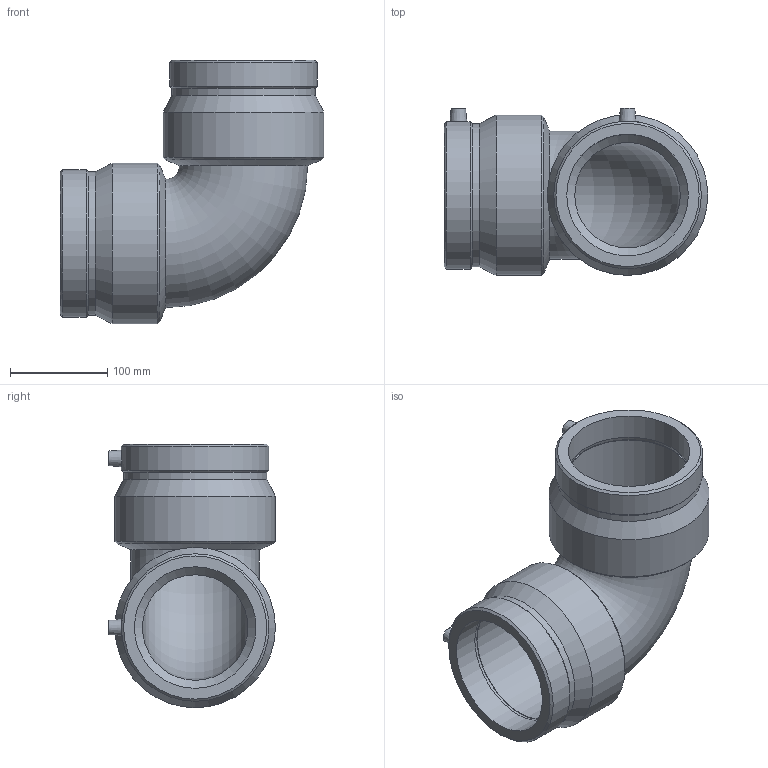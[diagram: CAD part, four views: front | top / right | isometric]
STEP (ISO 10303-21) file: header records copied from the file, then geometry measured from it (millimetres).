
FILE_DESCRIPTION(/* description */ ('PLASSON 90° ELBOW 125'),/* implementation_level */ '2;1');
FILE_NAME(/* name */ '490504125.stp',/* time_stamp */ '2026-03-22T13:12:48+02:00',/* author */ ('KIM'),/* organization */ (''),/* preprocessor_version */ 'ST-DEVELOPER v20.1',/* originating_system */ 'Autodesk Inventor 2026',/* authorisation */ '');
FILE_SCHEMA (('AUTOMOTIVE_DESIGN { 1 0 10303 214 3 1 1 }'));
Length unit declared in the file: millimetre
Products named in the file (1): 490504125
Bounding box: 271 x 171.5 x 271 mm (x, y, z)
Volume: 2169842.3 mm3; surface area: 315835.5 mm2
Topology: 1 solids, 1 shells, 42 faces, 82 edges, 50 vertices
Faces by surface type: cone 16, cylinder 14, plane 10, torus 2
Full cylindrical faces by diameter (mm): 4 x2, 10 x2, 125 x4, 147.246 x2, 151.8 x2, 165 x2
Entity records: 1189 total; most frequent: CARTESIAN_POINT 243, DIRECTION 212, ORIENTED_EDGE 164, AXIS2_PLACEMENT_3D 91, EDGE_CURVE 82, EDGE_LOOP 52, VERTEX_POINT 50, CIRCLE 48
